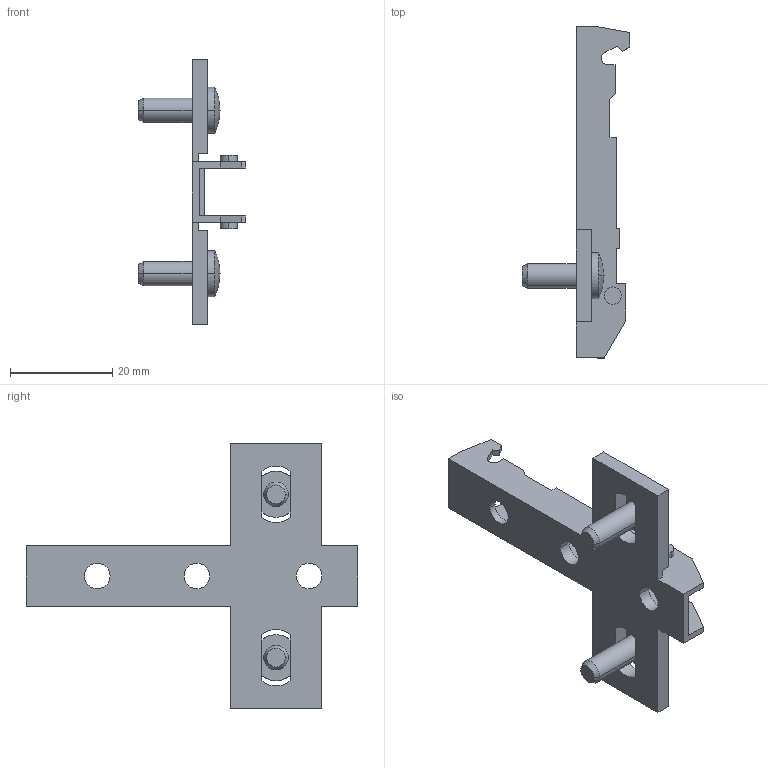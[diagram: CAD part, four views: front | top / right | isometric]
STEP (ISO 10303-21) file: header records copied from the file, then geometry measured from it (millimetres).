
FILE_DESCRIPTION (( 'STEP AP214' ), '1' );
FILE_NAME ('Eco Kreuzmontageplatte LR28_32_Euro_vorm. 13,5mm_H00.step', '2010-11-18T10:06:04', ( 'grass' ), ( '' ), 'SwSTEP 2.0', 'SolidWorks 2010', '' );
FILE_SCHEMA (( 'AUTOMOTIVE_DESIGN' ));
Length unit declared in the file: millimetre
Products named in the file (1): Eco Kreuzmontageplatte LR28_32_Euro_vorm. 13,5mm_H00
Bounding box: 21 x 65 x 52 mm (x, y, z)
Volume: 4746.2 mm3; surface area: 5891 mm2
Topology: 1 solids, 1 shells, 102 faces, 290 edges, 190 vertices
Faces by surface type: plane 70, cylinder 24, sphere 4, cone 4
Entity records: 3364 total; most frequent: CARTESIAN_POINT 583, ORIENTED_EDGE 580, DIRECTION 564, EDGE_CURVE 290, LINE 222, VECTOR 222, VERTEX_POINT 190, AXIS2_PLACEMENT_3D 171
